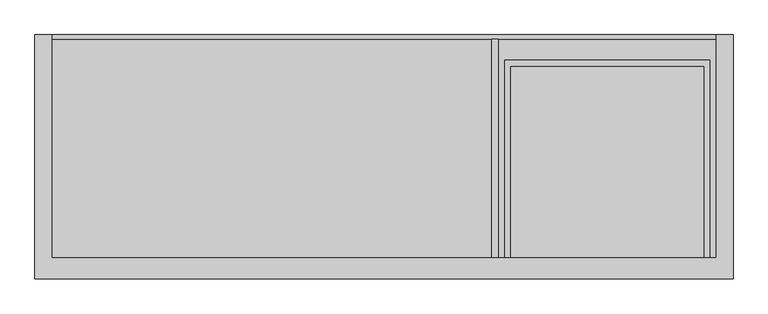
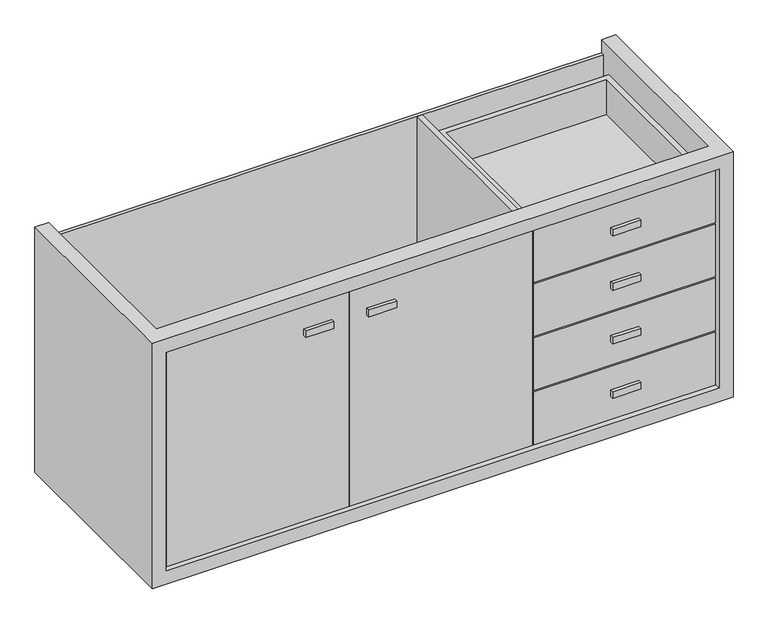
"""IFC4 building model written with IfcOpenShell, lengths in millimetres: furniture geometry, Armário coz baixo 2p 4g : Armário coz baixo 2p 4g."""

from ifc_helpers import new_model, si_unit, frame, origin, place, context, project, spatial, polyline, outline, extrude, faceted_brep, source, transform, mapped, element, save


def furniture_1b7d42ac(model_context):
    return source(origin(), model_context, "Body", "SolidModel", [
        extrude(outline(polyline([(320.7139583, -10.0), (320.7139583, -530.0), (305.7139583, -530.0), (305.7139583, -10.0), (320.7139583, -10.0)])), frame((0.0, 0.0, 150.0), z_axis=(0.0, 0.0, 1.0), x_axis=(1.0, 0.0, 0.0)), (0.0, 0.0, 1.0), 650.0),
        extrude(outline(polyline([(837.7412221, 0.0), (837.7412221, -10.0), (-738.3405692, -10.0), (-738.3405692, 0.0), (837.7412221, 0.0)])), frame((0.0, 0.0, 140.0), z_axis=(0.0, 0.0, 1.0), x_axis=(1.0, 0.0, 0.0)), (0.0, 0.0, 1.0), 660.0),
        faceted_brep([(822.7412221, -60.0, 285.0), (335.7139583, -60.0, 285.0), (335.7139583, -550.0, 285.0), (822.7412221, -550.0, 285.0), (350.7139583, -75.0, 285.0), (807.7412221, -75.0, 285.0), (807.7412221, -535.0, 285.0), (350.7139583, -535.0, 285.0), (822.7412221, -60.0, 165.0), (822.7412221, -550.0, 165.0), (335.7139583, -550.0, 165.0), (335.7139583, -60.0, 165.0), (807.7412221, -75.0, 180.0), (350.7139583, -75.0, 180.0), (350.7139583, -535.0, 180.0), (807.7412221, -535.0, 180.0)], [[[0, 1, 2, 3], [4, 5, 6, 7]], [[8, 9, 10, 11]], [[1, 0, 8, 11]], [[2, 1, 11, 10]], [[3, 2, 10, 9]], [[0, 3, 9, 8]], [[12, 13, 14, 15]], [[13, 12, 5, 4]], [[14, 13, 4, 7]], [[15, 14, 7, 6]], [[12, 15, 6, 5]]]),
        faceted_brep([(822.7412221, -60.0, 447.5), (335.7139583, -60.0, 447.5), (335.7139583, -550.0, 447.5), (822.7412221, -550.0, 447.5), (350.7139583, -75.0, 447.5), (807.7412221, -75.0, 447.5), (807.7412221, -535.0, 447.5), (350.7139583, -535.0, 447.5), (822.7412221, -60.0, 330.0), (822.7412221, -550.0, 330.0), (335.7139583, -550.0, 330.0), (335.7139583, -60.0, 330.0), (807.7412221, -75.0, 345.0), (350.7139583, -75.0, 345.0), (350.7139583, -535.0, 345.0), (807.7412221, -535.0, 345.0)], [[[0, 1, 2, 3], [4, 5, 6, 7]], [[8, 9, 10, 11]], [[1, 0, 8, 11]], [[2, 1, 11, 10]], [[3, 2, 10, 9]], [[0, 3, 9, 8]], [[12, 13, 14, 15]], [[13, 12, 5, 4]], [[14, 13, 4, 7]], [[15, 14, 7, 6]], [[12, 15, 6, 5]]]),
        faceted_brep([(822.7412221, -60.0, 610.0), (335.7139583, -60.0, 610.0), (335.7139583, -550.0, 610.0), (822.7412221, -550.0, 610.0), (350.7139583, -75.0, 610.0), (807.7412221, -75.0, 610.0), (807.7412221, -535.0, 610.0), (350.7139583, -535.0, 610.0), (822.7412221, -60.0, 492.5), (822.7412221, -550.0, 492.5), (335.7139583, -550.0, 492.5), (335.7139583, -60.0, 492.5), (807.7412221, -75.0, 507.5), (350.7139583, -75.0, 507.5), (350.7139583, -535.0, 507.5), (807.7412221, -535.0, 507.5)], [[[0, 1, 2, 3], [4, 5, 6, 7]], [[8, 9, 10, 11]], [[1, 0, 8, 11]], [[2, 1, 11, 10]], [[3, 2, 10, 9]], [[0, 3, 9, 8]], [[12, 13, 14, 15]], [[13, 12, 5, 4]], [[14, 13, 4, 7]], [[15, 14, 7, 6]], [[12, 15, 6, 5]]]),
        extrude(outline(polyline([(-161.3133054, -570.0), (-81.3133054, -570.0), (-81.3133054, -580.0), (-161.3133054, -580.0), (-161.3133054, -570.0)])), frame((0.0, 0.0, 705.0), z_axis=(0.0, 0.0, 1.0), x_axis=(1.0, 0.0, 0.0)), (0.0, 0.0, 1.0), 20.0),
        extrude(outline(polyline([(-341.3133054, -570.0), (-261.3133054, -570.0), (-261.3133054, -580.0), (-341.3133054, -580.0), (-341.3133054, -570.0)])), frame((0.0, 0.0, 705.0), z_axis=(0.0, 0.0, 1.0), x_axis=(1.0, 0.0, 0.0)), (0.0, 0.0, 1.0), 20.0),
        faceted_brep([(822.7412221, -60.0, 775.0), (335.7139583, -60.0, 775.0), (335.7139583, -550.0, 775.0), (822.7412221, -550.0, 775.0), (350.7139583, -75.0, 775.0), (807.7412221, -75.0, 775.0), (807.7412221, -535.0, 775.0), (350.7139583, -535.0, 775.0), (822.7412221, -60.0, 655.0), (822.7412221, -550.0, 655.0), (335.7139583, -550.0, 655.0), (335.7139583, -60.0, 655.0), (807.7412221, -75.0, 670.0), (350.7139583, -75.0, 670.0), (350.7139583, -535.0, 670.0), (807.7412221, -535.0, 670.0)], [[[0, 1, 2, 3], [4, 5, 6, 7]], [[8, 9, 10, 11]], [[1, 0, 8, 11]], [[2, 1, 11, 10]], [[3, 2, 10, 9]], [[0, 3, 9, 8]], [[12, 13, 14, 15]], [[13, 12, 5, 4]], [[14, 13, 4, 7]], [[15, 14, 7, 6]], [[12, 15, 6, 5]]]),
        extrude(outline(polyline([(800.0, 837.7412221), (800.0, -738.3405692), (140.0, -738.3405692), (140.0, 837.7412221), (800.0, 837.7412221)]), holes=[polyline([(790.0, -728.3405692), (790.0, 827.7412221), (150.0, 827.7412221), (150.0, -728.3405692), (790.0, -728.3405692)])]), frame((0.0, -550.0, 0.0), z_axis=(0.0, 1.0, 0.0), x_axis=(0.0, 0.0, 1.0)), (0.0, 0.0, 1.0), 20.0),
        faceted_brep([(877.7412221, -580.0, 840.0), (-778.3405692, -580.0, 840.0), (-778.3405692, -580.0, 100.0), (877.7412221, -580.0, 100.0), (837.7412221, -580.0, 800.0), (837.7412221, -580.0, 140.0), (-738.3405692, -580.0, 140.0), (-738.3405692, -580.0, 800.0), (877.7412221, 0.0, 840.0), (877.7412221, 0.0, 100.0), (-778.3405692, 0.0, 100.0), (-778.3405692, 0.0, 840.0), (-738.3405692, 0.0, 840.0), (-738.3405692, 0.0, 140.0), (837.7412221, 0.0, 140.0), (837.7412221, 0.0, 840.0), (837.7412221, -530.0, 840.0), (-738.3405692, -530.0, 840.0), (837.7412221, -530.0, 800.0), (-738.3405692, -530.0, 800.0)], [[[0, 1, 2, 3], [4, 5, 6, 7]], [[8, 9, 10, 11, 12, 13, 14, 15]], [[1, 0, 8, 15, 16, 17, 12, 11]], [[2, 1, 11, 10]], [[3, 2, 10, 9]], [[0, 3, 9, 8]], [[5, 4, 18, 16, 15, 14]], [[6, 5, 14, 13]], [[7, 6, 13, 12, 17, 19]], [[4, 7, 19, 18]], [[19, 17, 16, 18]]]),
        extrude(outline(polyline([(534.2275902, -570.0), (614.2275902, -570.0), (614.2275902, -580.0), (534.2275902, -580.0), (534.2275902, -570.0)])), frame((0.0, 0.0, 215.0), z_axis=(0.0, 0.0, 1.0), x_axis=(1.0, 0.0, 0.0)), (0.0, 0.0, 1.0), 20.0),
        extrude(outline(polyline([(534.2275902, -570.0), (614.2275902, -570.0), (614.2275902, -580.0), (534.2275902, -580.0), (534.2275902, -570.0)])), frame((0.0, 0.0, 378.75), z_axis=(0.0, 0.0, 1.0), x_axis=(1.0, 0.0, 0.0)), (0.0, 0.0, 1.0), 20.0),
        extrude(outline(polyline([(534.2275902, -570.0), (614.2275902, -570.0), (614.2275902, -580.0), (534.2275902, -580.0), (534.2275902, -570.0)])), frame((0.0, 0.0, 541.25), z_axis=(0.0, 0.0, 1.0), x_axis=(1.0, 0.0, 0.0)), (0.0, 0.0, 1.0), 20.0),
        extrude(outline(polyline([(534.2275902, -570.0), (614.2275902, -570.0), (614.2275902, -580.0), (534.2275902, -580.0), (534.2275902, -570.0)])), frame((0.0, 0.0, 705.0), z_axis=(0.0, 0.0, 1.0), x_axis=(1.0, 0.0, 0.0)), (0.0, 0.0, 1.0), 20.0),
        extrude(outline(polyline([(832.7412221, -570.0), (315.7139583, -570.0), (315.7139583, -550.0), (832.7412221, -550.0), (832.7412221, -570.0)])), frame((0.0, 0.0, 145.0), z_axis=(0.0, 0.0, 1.0), x_axis=(1.0, 0.0, 0.0)), (0.0, 0.0, 1.0), 160.0),
        extrude(outline(polyline([(832.7412221, -570.0), (315.7139583, -570.0), (315.7139583, -550.0), (832.7412221, -550.0), (832.7412221, -570.0)])), frame((0.0, 0.0, 310.0), z_axis=(0.0, 0.0, 1.0), x_axis=(1.0, 0.0, 0.0)), (0.0, 0.0, 1.0), 157.5),
        extrude(outline(polyline([(832.7412221, -570.0), (315.7139583, -570.0), (315.7139583, -550.0), (832.7412221, -550.0), (832.7412221, -570.0)])), frame((0.0, 0.0, 472.5), z_axis=(0.0, 0.0, 1.0), x_axis=(1.0, 0.0, 0.0)), (0.0, 0.0, 1.0), 157.5),
        extrude(outline(polyline([(832.7412221, -570.0), (315.7139583, -570.0), (315.7139583, -550.0), (832.7412221, -550.0), (832.7412221, -570.0)])), frame((0.0, 0.0, 635.0), z_axis=(0.0, 0.0, 1.0), x_axis=(1.0, 0.0, 0.0)), (0.0, 0.0, 1.0), 160.0),
        extrude(outline(polyline([(310.7139583, -570.0), (-211.3133054, -570.0), (-211.3133054, -550.0), (310.7139583, -550.0), (310.7139583, -570.0)])), frame((0.0, 0.0, 145.0), z_axis=(0.0, 0.0, 1.0), x_axis=(1.0, 0.0, 0.0)), (0.0, 0.0, 1.0), 650.0),
        extrude(outline(polyline([(-211.3133054, -570.0), (-733.3405692, -570.0), (-733.3405692, -550.0), (-211.3133054, -550.0), (-211.3133054, -570.0)])), frame((0.0, 0.0, 145.0), z_axis=(0.0, 0.0, 1.0), x_axis=(1.0, 0.0, 0.0)), (0.0, 0.0, 1.0), 650.0),
    ])


if __name__ == "__main__":
    model = new_model("IFC4")
    model_context = context("Model", 3, world=origin())
    ifc_project = project(units=[si_unit("LENGTHUNIT", "METRE", prefix="MILLI")], contexts=[model_context])
    site = spatial("IfcSite", under=ifc_project)
    building = spatial("IfcBuilding", under=site)
    placement = place(None, origin())
    furniture_shape = furniture_1b7d42ac(model_context)
    element("IfcFurniture", 1, ObjectType="Armário coz baixo 2p 4g : Armário coz baixo 2p 4g", at=placement, inside=building, context=model_context, shape_type="MappedRepresentation", body=[
        mapped(furniture_shape, transform((0.0, 0.0, 0.0), x_axis=(1.0, 0.0, 0.0), y_axis=(0.0, 1.0, 0.0), z_axis=(0.0, 0.0, 1.0))),
    ])
    save(model, "model.ifc")
